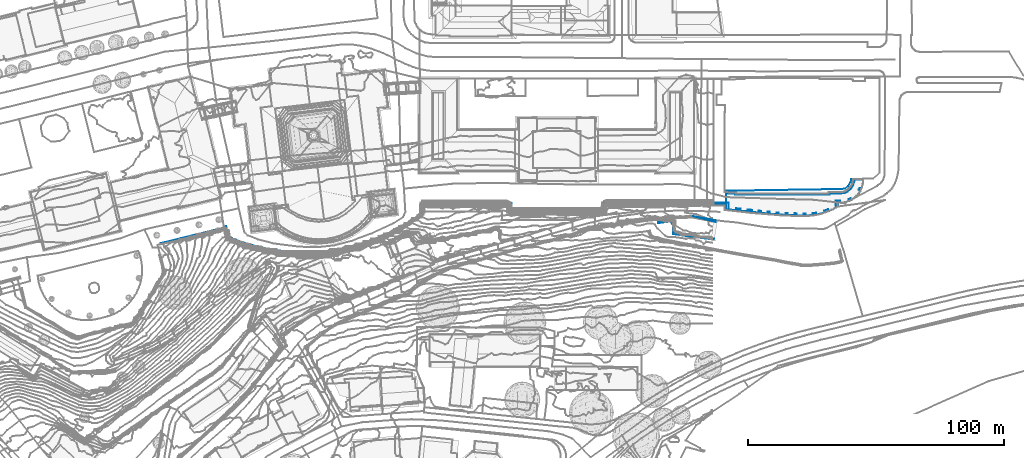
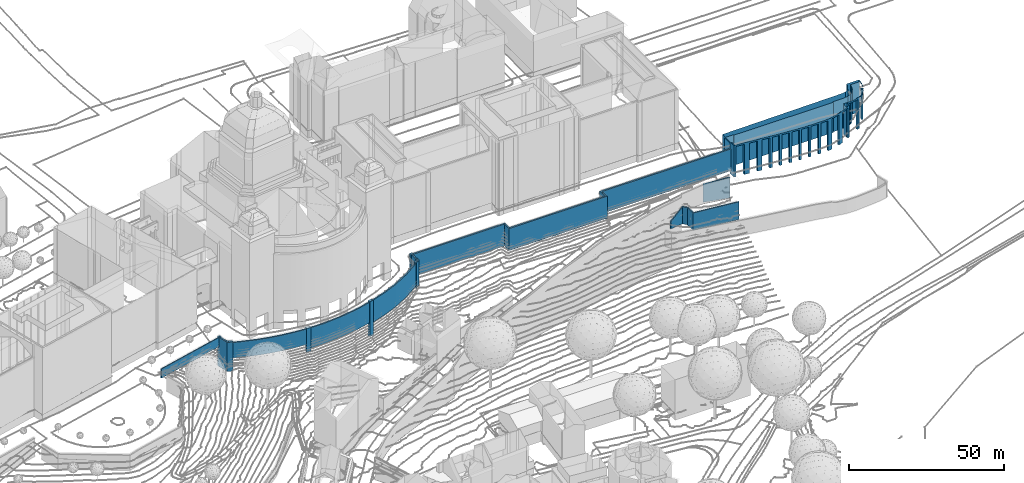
# Not in any storey, part 55 of 477: 3 walls.
"""IFC4 building model written with IfcOpenShell, lengths in metres."""

from ifc_helpers import new_model, si_unit, frame, origin_with_axes, place, context, subcontext, project, spatial, polygons, element, save


model = new_model("IFC4")

# Units and contexts
model_context = context("Model", 3, precision=1e-05, world=origin_with_axes())
body_context = subcontext(model_context, "Body", "Model", "MODEL_VIEW")
ifc_project = project(units=[si_unit("AREAUNIT", "SQUARE_METRE"), si_unit("LENGTHUNIT", "METRE")], contexts=[model_context])

# Sites, building
site_1_placement = place(None, origin_with_axes())
site_1 = spatial("IfcSite", under=ifc_project, at=site_1_placement, Name="Topoexport Site")
site_2_placement = place(site_1_placement, origin_with_axes())
site_2 = spatial("IfcSite", under=site_1, at=site_2_placement, Name="TPX_BUILDINGS")
building_placement = place(site_2_placement, frame((211.8297320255, 101.9383160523, 526.7541), z_axis=(0.0, 0.0, 1.0), x_axis=(1.0, 0.0, 0.0)))
building = spatial("IfcBuilding", under=site_2, at=building_placement, Name="Building 18", CompositionType="ELEMENT")

# Walls
wall_1_placement = place(None, frame((211.8297320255, 101.9383160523, 526.7541), z_axis=(0.0, 0.0, 1.0), x_axis=(1.0, 0.0, 0.0)))
element("IfcWall", 1, at=wall_1_placement, inside=building, Name="Wall 19", context=body_context, shape_type="Tessellation", body=[
    polygons([(363.2410000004, 254.4589999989, 3.6177), (361.5580000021, 253.379900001, 13.5627), (363.2410000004, 254.4589999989, 13.5627), (361.0960000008, 254.1953000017, 3.6177), (362.3150000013, 254.9765000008, 13.5627), (361.0960000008, 254.1953000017, 13.5627), (361.4830000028, 253.5117000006, 13.1968), (361.4831000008, 253.5117000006, 4.4416), (361.2360000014, 253.9481999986, 13.1968), (361.2360000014, 253.9481999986, 4.4416), (361.5580000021, 253.379900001, 3.6177), (345.2380000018, 244.6904000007, 4.4416), (339.2430000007, 242.6669999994, 13.1968), (345.2380000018, 244.6904000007, 13.1968), (350.2200000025, 246.7958999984, 4.4416), (350.2200000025, 246.7958999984, 13.1968), (355.9690000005, 249.8583999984, 4.4416), (355.9690000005, 249.8583999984, 13.1968), (355.7120000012, 250.2899999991, 4.4416), (355.7120000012, 250.2899999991, 13.1968), (350.0040000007, 247.2490000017, 4.4416), (350.0040000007, 247.2490000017, 13.1968), (345.0600000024, 245.1601000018, 4.4416), (345.0600000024, 245.1601000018, 13.1968), (339.068, 243.1387000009, 4.4416), (339.068, 243.1387000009, 13.1968), (339.3520000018, 242.3768999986, -0.2389), (337.745000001, 241.9609000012, 13.5627), (339.3520000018, 242.3768999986, 13.5627), (339.0240000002, 243.2588, 13.5627), (339.2430000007, 242.6669999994, 4.4416), (339.0240000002, 243.2588, -0.2389), (337.569000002, 242.8828000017, -0.2389), (337.569000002, 242.8828000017, 13.5627), (337.6970000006, 242.2089999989, 5.1645), (337.6970000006, 242.2089999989, 13.1968), (337.745000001, 241.9609000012, -0.2389), (337.6030000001, 242.7030999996, 5.1645), (337.6030000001, 242.7030999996, 13.1968), (314.1180000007, 239.8495999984, 5.1646), (318.8550000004, 239.754900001, 13.1968), (314.1180000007, 239.8495999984, 13.1968), (318.8709999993, 239.2518999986, 5.1646), (314.132000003, 239.3476000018, 13.1968), (318.8709999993, 239.2518999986, 13.1968), (325.943, 239.8330000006, 5.1645), (325.943, 239.8330000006, 13.1968), (332.6730000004, 240.9354999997, 5.1645), (332.6730000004, 240.9354999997, 13.1968), (332.5710000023, 241.4277000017, 5.1645), (332.5710000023, 241.4277000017, 13.1968), (325.882000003, 240.3310000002, 5.1646), (325.882000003, 240.3310000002, 13.1968), (318.8550000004, 239.754900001, 5.1646), (314.1410000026, 239.0088, 4.1667), (312.4869999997, 239.1259999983, 13.5628), (314.1410000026, 239.0088, 13.5628), (314.1160000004, 239.9472999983, 13.5628), (314.132000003, 239.3476000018, 5.1646), (314.1160000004, 239.9472000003, 4.1667), (312.6220000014, 240.0546999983, 4.1667), (312.6220000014, 240.0546999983, 13.5628), (312.5280000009, 239.4081999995, 13.1968), (312.5280000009, 239.4081999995, 7.0424), (312.4869999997, 239.1259999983, 4.1667), (312.6000000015, 239.9061999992, 7.0424), (312.6000000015, 239.9061999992, 13.1968), (288.4350000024, 245.1152000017, 7.0424), (291.2360000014, 244.128899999, 13.1968), (288.4350000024, 245.1152000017, 13.1968), (291.0769999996, 243.6523000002, 7.0424), (288.2880000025, 244.6356999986, 13.1968), (291.0769999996, 243.6523000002, 13.1968), (295.568, 242.2245999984, 7.0424), (295.568, 242.2245999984, 13.1968), (299.5620000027, 241.1845999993, 7.0424), (299.5620000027, 241.1845999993, 13.1968), (304.0160000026, 240.3407999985, 7.0424), (304.0160000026, 240.3407999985, 13.1968), (308.8210000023, 239.6748000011, 7.0424), (308.8210000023, 239.6748000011, 13.1968), (308.8740000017, 240.1737999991, 7.0424), (308.8740000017, 240.1737999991, 13.1968), (304.0970000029, 240.8348999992, 7.0424), (304.0970000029, 240.8350000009, 13.1968), (299.6730000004, 241.6748000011, 7.0424), (299.6730000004, 241.6748000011, 13.1968), (295.7070000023, 242.7060000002, 7.0424), (295.7070000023, 242.7060000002, 13.1968), (291.2360000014, 244.128899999, 7.0424), (288.2349999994, 244.4609000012, 2.1059), (286.4130000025, 245.1796999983, 13.5628), (288.2349999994, 244.4609000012, 13.5628), (288.5089999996, 245.3583999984, 13.5628), (288.5089999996, 245.3583999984, 2.1059), (288.2880000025, 244.6356999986, 7.0424), (287.2149999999, 245.8682000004, 2.1059), (287.2149999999, 245.8682000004, 13.5628), (286.7640000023, 246.5692999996, 2.1059), (286.7640000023, 246.5692999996, 13.5628), (286.1970000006, 248.9990000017, 2.1059), (286.1970000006, 248.9990000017, 13.5628), (286.4820000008, 249.0634000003, 2.1059), (286.4820000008, 249.0634999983, 13.5628), (286.2809999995, 249.9393999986, 2.1059), (286.2809999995, 249.9395000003, 13.5628), (285.3690000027, 249.7305000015, 2.1059), (285.3690000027, 249.7305000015, 13.5628), (285.5260000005, 249.0487999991, 9.8282), (285.5260000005, 249.0487999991, 13.4408), (286.4130000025, 245.1796999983, 2.1059), (285.4420000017, 249.4101000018, 9.8282), (285.4420000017, 249.4101999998, 13.4408), (260.5320000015, 243.3379000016, 9.8282), (260.5320000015, 243.3379000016, 13.4408), (260.620000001, 242.9765000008, 9.8282), (260.620000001, 242.9765999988, 13.4408), (433.1830000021, 259.1473999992, 4.6546), (458.5340000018, 259.1180999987, 13.2578), (433.1830000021, 259.1473999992, 13.3188), (458.5340000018, 258.5155999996, 4.6546), (433.7950000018, 258.5439000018, 4.6546), (458.5340000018, 258.5155999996, 13.2578), (363.3269999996, 259.0254000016, 4.6546), (373.694000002, 259.0078000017, 13.3187), (363.3269999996, 259.0254000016, 13.3188), (373.694000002, 258.4043000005, 4.6546), (363.3159999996, 258.4228000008, 13.3188), (373.694000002, 258.4043000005, 13.3187), (397.2360000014, 258.4266999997, 4.6547), (397.2360000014, 258.4266999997, 13.3189), (397.2530000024, 255.4492000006, 4.6547), (397.2530000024, 255.4492000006, 13.3188), (433.8430000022, 255.4032999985, 4.6546), (433.8430000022, 255.4032999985, 13.3188), (433.7950000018, 258.5439000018, 13.3188), (433.2310000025, 256.0078000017, 4.6546), (433.2310000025, 256.0078000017, 13.3188), (397.8530000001, 256.0516999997, 4.6547), (397.8530000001, 256.0516999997, 13.3188), (397.8360000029, 259.0302999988, 4.6547), (397.8360000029, 259.0302000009, 13.3189), (373.694000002, 259.0078000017, 4.6546), (363.3300000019, 259.2012000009, 13.5627), (363.313000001, 258.2626999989, 13.5627), (363.313000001, 258.2626999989, 3.6177), (363.3300000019, 259.2012000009, 3.6177), (363.3159999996, 258.4228000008, 4.6546), (362.3949999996, 259.2186999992, 3.6177), (362.3949999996, 259.2186999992, 13.5627), (362.3780000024, 258.3046999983, 3.6177), (362.3780000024, 258.3046999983, 13.5627), (362.5810000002, 258.2802999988, 3.6177), (362.5810000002, 258.2802999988, 13.5627), (362.5670000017, 255.7236000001, 3.6177), (362.5670000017, 255.7236000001, 13.5627), (362.3150000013, 254.9765000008, 3.6177), (363.2630000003, 255.6416000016, 3.6177), (363.2630000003, 255.6416000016, 13.5627), (363.0109999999, 255.754900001, 3.6177), (363.0109999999, 255.754900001, 13.5627), (363.1009999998, 258.2637000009, 3.6177), (363.1009999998, 258.2637000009, 13.5627), (533.5789999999, 262.9219000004, 15.2025), (532.393000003, 261.6024999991, 15.8335), (533.5789999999, 262.9219000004, 15.8335), (534.0710000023, 263.9072000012, 3.3197), (534.0710000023, 263.9072000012, 15.2025), (534.3590000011, 264.4842999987, 3.3197), (534.3590000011, 264.4842999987, 15.8335), (534.9620000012, 266.441399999, 15.2025), (534.3949999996, 264.6024999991, 15.2025), (534.9620000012, 266.441399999, 15.8335), (534.3949999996, 264.6024999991, 3.3197), (535.1700000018, 268.4120999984, 3.3197), (535.1421000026, 268.1493999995, 15.2025), (535.1700000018, 268.4120999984, 15.8335), (535.1421000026, 268.1493999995, 3.3197), (530.438000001, 268.3808000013, 3.3197), (530.438000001, 268.3808000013, 15.8335), (530.2149999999, 267.2958000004, 3.3197), (530.2149999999, 267.2958999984, 15.8335), (529.3230000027, 265.6561999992, 3.3197), (529.3230000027, 265.6561999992, 15.8335), (527.9770000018, 264.7441000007, 3.3197), (527.9770000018, 264.7441000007, 15.8335), (526.756000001, 264.4979999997, 3.3197), (526.756000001, 264.4979999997, 15.8335), (481.6570000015, 263.8231999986, 3.3197), (481.6570000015, 263.8231999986, 15.8335), (481.6610000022, 258.5654000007, 13.2578), (481.6600000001, 259.1678999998, 15.2026), (481.6620000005, 256.5936999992, 15.8335), (481.6620000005, 256.5936999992, 3.3197), (481.6600000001, 259.1678999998, 3.3197), (481.6610000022, 258.5654000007, 4.6546), (481.6600000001, 259.1678999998, 4.6546), (481.6600000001, 259.1678999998, 13.2578), (481.6579999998, 262.692400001, 15.2026), (498.137000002, 254.8691000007, 3.3197), (497.757000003, 254.9092000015, 15.2026), (498.137000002, 254.8691000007, 15.8335), (495.2380999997, 255.1728000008, 15.2026), (494.3370000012, 255.2675999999, 15.2026), (491.6330000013, 255.5507999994, 15.2026), (489.9700000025, 255.7245999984, 15.2026), (495.2380000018, 255.1728000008, 3.3197), (497.757000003, 254.9092000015, 3.3197), (494.3370000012, 255.2675000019, 3.3197), (489.9700000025, 255.7245999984, 3.3197), (491.6330000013, 255.5507999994, 3.3197), (487.1970000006, 256.0146000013, 15.2026), (482.4620000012, 256.5097000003, 15.2026), (485.3940000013, 256.2021000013, 15.2026), (485.3940000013, 256.2021000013, 3.3197), (487.1970000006, 256.0146000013, 3.3197), (501.9020000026, 254.558600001, 3.3197), (501.2690000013, 254.6103000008, 15.2026), (501.9020000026, 254.558600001, 15.8335), (501.2690000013, 254.6103000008, 3.3197), (498.6119999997, 254.8300999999, 15.2026), (498.6119999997, 254.8300999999, 3.3197), (505.387000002, 254.2987999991, 3.3197), (504.8049999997, 254.3418000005, 15.2025), (505.387000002, 254.2987999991, 15.8335), (504.8049999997, 254.3418000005, 3.3197), (502.1700000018, 254.5381000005, 15.2026), (502.1700000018, 254.5381000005, 3.3197), (509.0789999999, 254.2098999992, 3.3197), (508.3170000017, 254.2285000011, 15.2025), (509.0360000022, 254.2109000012, 15.8335), (508.3170000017, 254.2285000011, 3.3197), (505.5899999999, 254.2928999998, 15.2025), (505.5899999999, 254.2930000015, 3.3197), (512.4750000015, 254.1513000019, 3.3197), (511.8520000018, 254.1620999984, 15.2025), (512.4750000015, 254.1513000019, 15.8335), (511.8520000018, 254.1620999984, 3.3197), (509.0789999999, 254.2098999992, 15.2025), (516.3090000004, 254.3143999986, 3.3197), (515.4340000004, 254.2773000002, 15.2025), (516.3090000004, 254.3143999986, 15.8335), (515.4340000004, 254.2773000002, 3.3197), (512.6380000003, 254.1581999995, 15.2025), (512.6380000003, 254.1581999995, 3.3197), (520.4700000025, 255.4248000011, 3.3197), (520.120000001, 255.3310000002, 15.2025), (520.4700000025, 255.4248000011, 15.8335), (517.0529999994, 254.5126999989, 15.2025), (520.120000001, 255.3310000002, 3.3197), (517.0529999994, 254.5126999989, 3.3197), (523.143000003, 256.5146000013, 15.8335), (523.143000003, 256.5146000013, 15.2025), (521.7239999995, 255.9354999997, 15.2025), (521.7239999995, 255.9354999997, 3.3197), (525.3540000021, 257.6504000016, 3.3197), (524.625, 257.2754000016, 15.2025), (525.3540000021, 257.6504000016, 15.8335), (524.625, 257.2754000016, 3.3197), (525.3520000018, 259.2518999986, 3.3197), (525.3520000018, 259.2518999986, 15.8335), (527.4880000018, 259.2547999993, 15.2025), (526.1620000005, 259.253899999, 15.2025), (527.4880999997, 259.2547999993, 15.8335), (526.1620000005, 259.253899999, 3.3197), (529.4640000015, 259.7391999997, 15.2025), (529.4640000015, 259.7391999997, 15.8335), (530.882000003, 260.4345000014, 15.2025), (530.5020000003, 260.2479999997, 15.2025), (530.882000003, 260.4345000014, 15.8335), (530.5020000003, 260.2479999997, 3.3197), (529.7230000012, 259.8662, 3.3197), (529.7230000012, 259.8662, 15.2025), (532.393000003, 261.6024999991, 15.2025), (531.6520000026, 267.307599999, 3.3197), (531.7719999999, 268.1464999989, 15.2025), (531.7721000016, 268.1464999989, 3.3197), (531.1359999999, 265.8418000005, 3.3197), (531.6520000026, 267.307599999, 15.2025), (530.2880000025, 264.5058000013, 3.3197), (531.1359999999, 265.8418000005, 15.2025), (529.131000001, 263.4921999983, 3.3197), (530.2880000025, 264.5058000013, 15.2025), (527.8500000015, 262.9803999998, 3.3197), (529.131000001, 263.4921000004, 15.2025), (526.3060000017, 262.7265000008, 3.3197), (527.8500000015, 262.9803999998, 15.2025), (522.0210000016, 262.7226000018, 3.3197), (526.3060000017, 262.7265000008, 15.2025), (522.0210999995, 262.3330000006, 3.3197), (522.0210000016, 262.7226000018, 15.2025), (485.0329999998, 262.3867000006, 3.3197), (522.0210000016, 262.3330000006, 15.2025), (485.0329999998, 262.6953000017, 3.3197), (485.0329999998, 262.3867000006, 15.2026), (481.6579999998, 262.692400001, 3.3197), (485.0329999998, 262.6953000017, 15.2026), (482.4620000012, 256.5097000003, 3.3197), (482.4600000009, 259.1708999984, 15.2026), (482.4600000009, 259.1708999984, 3.3197), (485.393000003, 256.9824000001, 3.3197), (487.1960000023, 256.7928999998, 3.3197), (485.393000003, 256.9824000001, 15.2026), (487.1960000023, 256.7928999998, 15.2026), (489.9690000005, 256.503899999, 3.3197), (491.632000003, 256.3291000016, 3.3197), (489.9690000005, 256.503899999, 15.2026), (491.632000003, 256.3291000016, 15.2026), (494.3360000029, 256.0469000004, 3.3197), (495.2369999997, 255.9521000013, 3.3197), (494.3361000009, 256.0469000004, 15.2026), (495.2371000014, 255.9521000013, 15.2026), (497.756000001, 255.6884999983, 3.3197), (498.6110000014, 255.5995999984, 3.3197), (497.756000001, 255.6884000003, 15.2026), (498.6110000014, 255.5995999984, 15.2026), (501.268000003, 255.3905999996, 3.3197), (502.1689999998, 255.3154000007, 3.3197), (501.268000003, 255.3905999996, 15.2026), (502.1691000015, 255.3154000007, 15.2026), (504.8040000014, 255.121100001, 3.3197), (505.5890000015, 255.0634000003, 3.3197), (504.8040000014, 255.121100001, 15.2026), (505.5890000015, 255.0634999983, 15.2025), (508.3159999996, 255.0097000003, 3.3197), (509.0780000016, 254.9902000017, 3.3197), (508.3159999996, 255.0097000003, 15.2025), (509.0789999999, 254.8027000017, 3.3197), (509.0780000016, 254.9902000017, 15.2025), (509.0789999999, 254.8027000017, 15.2025), (511.8509999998, 254.9433000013, 3.3197), (512.637000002, 254.9393999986, 3.3197), (511.8509999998, 254.9433000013, 15.2025), (512.637000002, 254.9393999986, 15.2025), (515.4330000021, 255.058600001, 3.3197), (516.2950000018, 255.0956999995, 3.3197), (515.4330000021, 255.058600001, 15.2025), (516.8159999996, 255.2344000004, 3.3197), (516.2950000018, 255.0956999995, 15.2025), (516.8159999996, 255.2344000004, 15.2025), (519.882000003, 256.0527000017, 3.3197), (521.495000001, 256.629900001, 3.3197), (519.882000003, 256.0527000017, 15.2025), (521.495000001, 256.629900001, 15.2025), (524.4030000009, 257.9492000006, 3.3197), (524.4131000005, 260.0322000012, 3.3197), (524.4030000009, 257.9492000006, 15.2025), (526.1380000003, 260.0340999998, 3.3197), (524.4131000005, 260.0322000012, 15.2025), (526.1380000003, 260.0340999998, 15.2025), (529.393000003, 260.4921999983, 3.3197), (530.1720000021, 260.8740000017, 3.3197), (529.393000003, 260.4921999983, 15.2025), (530.1720000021, 260.8740000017, 15.2025), (533.745000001, 264.0634000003, 3.3197), (533.4059999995, 264.2265000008, 3.3197), (533.745000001, 264.0634000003, 15.2025), (533.7140000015, 264.9296999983, 3.3197), (533.4059999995, 264.2265000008, 15.2025), (534.0879999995, 264.75, 3.3197), (533.7140000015, 264.9296999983, 15.2025), (534.0879999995, 264.75, 15.2025), (458.5340000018, 259.1180999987, 4.6546), (480.7430000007, 259.1660000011, 4.6546)], [[[3, 2, 1]], [[6, 5, 4]], [[8, 2, 7]], [[7, 2, 9]], [[11, 8, 10]], [[9, 6, 10]], [[6, 9, 2]], [[10, 4, 11]], [[4, 10, 6]], [[14, 13, 12]], [[16, 14, 15]], [[18, 16, 17]], [[7, 18, 8]], [[20, 9, 19]], [[22, 20, 21]], [[24, 22, 23]], [[26, 24, 25]], [[29, 28, 27]], [[30, 26, 25]], [[26, 30, 13]], [[32, 25, 31]], [[25, 32, 30]], [[13, 29, 31]], [[29, 13, 30]], [[31, 27, 32]], [[27, 31, 29]], [[34, 30, 33]], [[28, 36, 35]], [[34, 36, 28]], [[37, 35, 33]], [[35, 37, 28]], [[39, 34, 38]], [[33, 38, 34]], [[42, 41, 40]], [[45, 44, 43]], [[47, 45, 46]], [[49, 47, 48]], [[36, 49, 35]], [[51, 39, 50]], [[53, 51, 52]], [[41, 53, 54]], [[57, 56, 55]], [[40, 58, 42]], [[42, 58, 44]], [[60, 40, 59]], [[44, 57, 59]], [[57, 44, 58]], [[59, 55, 60]], [[62, 58, 61]], [[64, 56, 63]], [[62, 63, 56]], [[65, 64, 61]], [[67, 62, 66]], [[70, 69, 68]], [[73, 72, 71]], [[75, 73, 74]], [[77, 75, 76]], [[79, 77, 78]], [[81, 79, 80]], [[63, 81, 64]], [[83, 67, 82]], [[85, 83, 84]], [[87, 85, 86]], [[89, 87, 88]], [[69, 89, 90]], [[93, 92, 91]], [[94, 70, 68]], [[93, 70, 94]], [[95, 68, 91]], [[68, 95, 94]], [[72, 93, 96]], [[96, 91, 68]], [[91, 96, 93]], [[98, 94, 97]], [[100, 98, 99]], [[102, 100, 101]], [[104, 102, 103]], [[106, 104, 105]], [[108, 106, 107]], [[92, 110, 109]], [[110, 92, 108]], [[111, 109, 107]], [[109, 111, 92]], [[113, 108, 112]], [[108, 113, 110]], [[112, 107, 109]], [[107, 112, 108]], [[115, 113, 114]], [[117, 115, 116]], [[110, 117, 109]], [[120, 119, 118]], [[123, 122, 121]], [[126, 125, 124]], [[129, 128, 127]], [[131, 129, 130]], [[133, 131, 132]], [[135, 133, 134]], [[136, 135, 122]], [[138, 120, 137]], [[140, 138, 139]], [[142, 140, 141]], [[125, 142, 143]], [[124, 144, 126]], [[145, 126, 144]], [[147, 124, 146]], [[128, 145, 148]], [[150, 144, 149]], [[152, 150, 151]], [[154, 152, 153]], [[156, 154, 155]], [[5, 156, 157]], [[159, 3, 158]], [[161, 159, 160]], [[163, 161, 162]], [[145, 163, 146]], [[166, 165, 164]], [[169, 168, 167]], [[168, 169, 170]], [[168, 166, 164]], [[166, 168, 170]], [[173, 172, 171]], [[172, 173, 170]], [[172, 169, 174]], [[169, 172, 170]], [[177, 176, 175]], [[176, 177, 173]], [[175, 176, 178]], [[171, 176, 173]], [[180, 177, 179]], [[182, 180, 181]], [[184, 182, 183]], [[186, 184, 185]], [[188, 186, 187]], [[190, 188, 189]], [[193, 192, 191]], [[190, 192, 193]], [[193, 191, 194]], [[194, 196, 195]], [[197, 195, 196]], [[191, 192, 198]], [[189, 199, 190]], [[202, 201, 200]], [[201, 202, 203]], [[202, 204, 203]], [[204, 202, 205]], [[202, 206, 205]], [[207, 203, 204]], [[208, 200, 201]], [[209, 207, 204]], [[211, 205, 210]], [[212, 206, 193]], [[214, 193, 213]], [[193, 214, 212]], [[194, 213, 193]], [[212, 214, 215]], [[206, 202, 193]], [[216, 212, 215]], [[219, 218, 217]], [[218, 219, 202]], [[220, 217, 218]], [[221, 202, 200]], [[202, 221, 218]], [[200, 222, 221]], [[225, 224, 223]], [[224, 225, 219]], [[226, 223, 224]], [[227, 219, 217]], [[219, 227, 224]], [[217, 228, 227]], [[231, 230, 229]], [[230, 231, 225]], [[232, 229, 230]], [[233, 225, 223]], [[225, 233, 230]], [[223, 234, 233]], [[237, 236, 235]], [[236, 237, 231]], [[238, 235, 236]], [[239, 231, 229]], [[231, 239, 236]], [[242, 241, 240]], [[241, 242, 237]], [[243, 240, 241]], [[244, 237, 235]], [[237, 244, 241]], [[235, 245, 244]], [[248, 247, 246]], [[247, 248, 249]], [[250, 246, 247]], [[249, 242, 240]], [[242, 249, 248]], [[240, 251, 249]], [[254, 253, 252]], [[254, 248, 246]], [[248, 254, 252]], [[254, 246, 255]], [[258, 257, 256]], [[257, 258, 252]], [[256, 257, 259]], [[253, 257, 252]], [[261, 258, 260]], [[264, 263, 262]], [[263, 264, 261]], [[263, 260, 265]], [[260, 263, 261]], [[267, 264, 266]], [[270, 269, 268]], [[269, 270, 267]], [[269, 272, 271]], [[267, 266, 273]], [[273, 272, 269]], [[267, 273, 269]], [[165, 270, 274]], [[191, 123, 196]], [[277, 276, 275]], [[275, 279, 278]], [[278, 281, 280]], [[280, 283, 282]], [[282, 285, 284]], [[284, 287, 286]], [[286, 289, 288]], [[288, 291, 290]], [[290, 293, 292]], [[292, 295, 294]], [[294, 297, 296]], [[300, 299, 298]], [[215, 214, 301]], [[301, 303, 302]], [[302, 304, 216]], [[210, 206, 305]], [[305, 307, 306]], [[306, 308, 211]], [[209, 204, 309]], [[309, 311, 310]], [[310, 312, 207]], [[208, 201, 313]], [[313, 315, 314]], [[314, 316, 222]], [[220, 218, 317]], [[317, 319, 318]], [[318, 320, 228]], [[226, 224, 321]], [[321, 323, 322]], [[322, 324, 234]], [[232, 230, 325]], [[325, 327, 326]], [[326, 329, 328]], [[328, 330, 229]], [[238, 236, 331]], [[331, 333, 332]], [[332, 334, 245]], [[243, 241, 335]], [[335, 337, 336]], [[336, 339, 338]], [[338, 340, 251]], [[250, 247, 341]], [[341, 343, 342]], [[342, 344, 255]], [[259, 257, 345]], [[345, 347, 346]], [[346, 349, 348]], [[348, 350, 265]], [[272, 273, 351]], [[351, 353, 352]], [[352, 354, 271]], [[167, 168, 355]], [[355, 357, 356]], [[356, 359, 358]], [[358, 361, 360]], [[360, 362, 174]], [[178, 176, 277]], [[119, 364, 363]], [[198, 299, 300]], [[299, 198, 192]], [[197, 300, 195]], [[300, 197, 198]], [[364, 198, 197]], [[2, 11, 1]], [[5, 157, 4]], [[11, 2, 8]], [[13, 31, 12]], [[14, 12, 15]], [[16, 15, 17]], [[18, 17, 8]], [[9, 10, 19]], [[20, 19, 21]], [[22, 21, 23]], [[24, 23, 25]], [[28, 37, 27]], [[30, 32, 33]], [[39, 36, 34]], [[35, 38, 33]], [[41, 54, 40]], [[44, 59, 43]], [[45, 43, 46]], [[47, 46, 48]], [[49, 48, 35]], [[39, 38, 50]], [[51, 50, 52]], [[53, 52, 54]], [[56, 65, 55]], [[60, 58, 40]], [[57, 55, 59]], [[58, 60, 61]], [[65, 56, 64]], [[67, 63, 62]], [[64, 66, 61]], [[62, 61, 66]], [[69, 90, 68]], [[72, 96, 71]], [[73, 71, 74]], [[75, 74, 76]], [[77, 76, 78]], [[79, 78, 80]], [[81, 80, 64]], [[67, 66, 82]], [[83, 82, 84]], [[85, 84, 86]], [[87, 86, 88]], [[89, 88, 90]], [[92, 111, 91]], [[72, 70, 93]], [[94, 95, 97]], [[98, 97, 99]], [[100, 99, 101]], [[102, 101, 103]], [[104, 103, 105]], [[106, 105, 107]], [[113, 112, 114]], [[115, 114, 116]], [[117, 116, 109]], [[119, 363, 118]], [[136, 122, 123]], [[125, 143, 124]], [[128, 148, 127]], [[129, 127, 130]], [[131, 130, 132]], [[133, 132, 134]], [[135, 134, 122]], [[120, 118, 137]], [[138, 137, 139]], [[140, 139, 141]], [[142, 141, 143]], [[147, 144, 124]], [[128, 126, 145]], [[124, 148, 146]], [[145, 146, 148]], [[144, 147, 149]], [[150, 149, 151]], [[152, 151, 153]], [[154, 153, 155]], [[156, 155, 157]], [[3, 1, 158]], [[159, 158, 160]], [[161, 160, 162]], [[163, 162, 146]], [[165, 274, 164]], [[177, 175, 179]], [[180, 179, 181]], [[182, 181, 183]], [[184, 183, 185]], [[186, 185, 187]], [[188, 187, 189]], [[199, 192, 190]], [[191, 196, 194]], [[296, 199, 189]], [[205, 206, 210]], [[298, 213, 194]], [[258, 256, 260]], [[264, 262, 266]], [[270, 268, 274]], [[123, 121, 196]], [[276, 279, 275]], [[279, 281, 278]], [[281, 283, 280]], [[283, 285, 282]], [[285, 287, 284]], [[287, 289, 286]], [[289, 291, 288]], [[291, 293, 290]], [[293, 295, 292]], [[295, 297, 294]], [[297, 199, 296]], [[299, 213, 298]], [[214, 303, 301]], [[303, 304, 302]], [[304, 212, 216]], [[206, 307, 305]], [[307, 308, 306]], [[308, 205, 211]], [[204, 311, 309]], [[311, 312, 310]], [[312, 203, 207]], [[201, 315, 313]], [[315, 316, 314]], [[316, 221, 222]], [[218, 319, 317]], [[319, 320, 318]], [[320, 227, 228]], [[224, 323, 321]], [[323, 324, 322]], [[324, 233, 234]], [[230, 327, 325]], [[327, 329, 326]], [[329, 330, 328]], [[330, 239, 229]], [[236, 333, 331]], [[333, 334, 332]], [[334, 244, 245]], [[241, 337, 335]], [[337, 339, 336]], [[339, 340, 338]], [[340, 249, 251]], [[247, 343, 341]], [[343, 344, 342]], [[344, 254, 255]], [[257, 347, 345]], [[347, 349, 346]], [[349, 350, 348]], [[350, 263, 265]], [[273, 353, 351]], [[353, 354, 352]], [[354, 269, 271]], [[168, 357, 355]], [[357, 359, 356]], [[359, 361, 358]], [[361, 362, 360]], [[362, 172, 174]], [[176, 276, 277]], [[198, 364, 119]]]),
])
wall_2_placement = place(None, frame((211.8297320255, 101.9383160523, 526.7541), z_axis=(0.0, 0.0, 1.0), x_axis=(1.0, 0.0, 0.0)))
element("IfcWall", 2, at=wall_2_placement, inside=building, Name="Wall 21", context=body_context, shape_type="Tessellation", body=[
    polygons([(477.4600000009, 251.6347000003, -0.3199), (468.6530000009, 253.8467000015, 7.0034), (477.4600000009, 251.6347000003, 7.7103), (477.563000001, 252.25, -0.3199), (477.563000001, 252.25, 7.7103), (468.6530000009, 253.8467000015, -0.3199)], [[[3, 2, 1]], [[5, 3, 4]], [[2, 4, 6]], [[2, 6, 1]], [[3, 1, 4]], [[5, 4, 2]]]),
])
wall_3_placement = place(None, frame((211.8297320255, 101.9383160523, 526.7541), z_axis=(0.0, 0.0, 1.0), x_axis=(1.0, 0.0, 0.0)))
element("IfcWall", 3, at=wall_3_placement, inside=building, Name="Wall 23", context=body_context, shape_type="Tessellation", body=[
    polygons([(476.7719999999, 244.6942999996, -4.4166), (475.7760000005, 244.870099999, -4.4166), (476.7719999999, 244.6942999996, 2.5398), (476.8370000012, 245.1592000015, -4.4166), (476.8370000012, 245.1592000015, 2.5398), (475.8460000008, 245.3339999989, -4.4165), (475.8460000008, 245.3339999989, 2.5538), (467.7980000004, 246.3330000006, -4.4165), (467.7980000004, 246.3330000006, 2.5538), (467.7340000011, 245.8691000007, 2.5538), (475.7760000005, 244.870099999, 2.5538), (467.7340000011, 245.8691000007, -4.4165), (460.9220000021, 246.9032999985, 2.3698), (461.3780000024, 247.308600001, -4.4165), (461.3780000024, 247.308600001, 2.3698), (461.2690000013, 250.6649999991, -4.4165), (461.2690000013, 250.6649999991, 2.3698), (460.9220000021, 246.9032999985, -4.4165), (460.8049999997, 250.5009999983, 2.3698), (460.8049999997, 250.5009999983, -4.4165), (459.8090000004, 251.8104999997, 2.1868), (460.0170000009, 252.3104999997, -4.4165), (460.0170000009, 252.3104999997, 2.1868), (455.0830000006, 251.1865000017, -4.4165), (459.8090000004, 251.8104999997, -4.4165), (455.0830000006, 251.1865000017, -1.6508), (455.0210000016, 251.6513000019, -1.6508), (455.0210000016, 251.6513999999, -4.4165)], [[[3, 2, 1]], [[5, 3, 4]], [[7, 5, 6]], [[9, 7, 8]], [[11, 10, 2]], [[10, 13, 12]], [[15, 8, 14]], [[17, 15, 16]], [[13, 19, 18]], [[19, 21, 20]], [[23, 16, 22]], [[25, 21, 24]], [[26, 24, 21]], [[28, 27, 23]], [[23, 22, 28]], [[26, 27, 24]], [[11, 2, 3]], [[3, 1, 4]], [[5, 4, 6]], [[7, 6, 8]], [[10, 12, 2]], [[13, 18, 12]], [[9, 8, 15]], [[15, 14, 16]], [[19, 20, 18]], [[21, 25, 20]], [[17, 16, 23]], [[27, 28, 24]]]),
])

save(model, "model.ifc")
